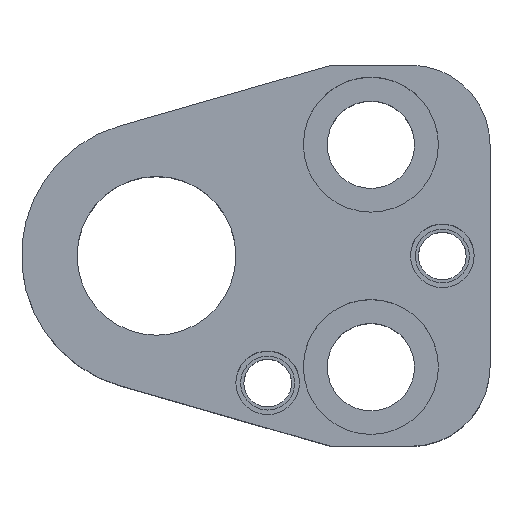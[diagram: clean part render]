
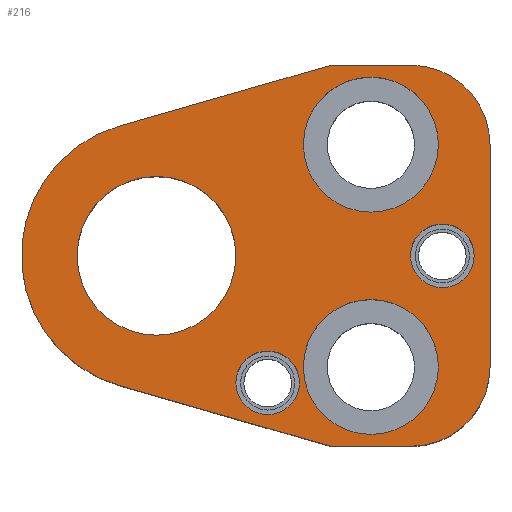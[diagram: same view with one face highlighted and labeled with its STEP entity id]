
A CAD part, top view. The second image highlights one B-rep face of the part: STEP entity #216.
In plain terms, the highlighted planar face has unit normal (0, 0, 1).
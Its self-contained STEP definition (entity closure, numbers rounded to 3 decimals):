
#104=FACE_BOUND('',#309,.T.);
#105=FACE_BOUND('',#310,.T.);
#106=FACE_BOUND('',#311,.T.);
#107=FACE_BOUND('',#312,.T.);
#108=FACE_BOUND('',#313,.T.);
#109=FACE_BOUND('',#314,.T.);
#148=CIRCLE('',#832,10.);
#150=CIRCLE('',#836,10.);
#160=CIRCLE('',#852,8.5);
#162=CIRCLE('',#855,8.5);
#164=CIRCLE('',#859,8.5);
#166=CIRCLE('',#862,8.5);
#168=CIRCLE('',#866,17.);
#169=CIRCLE('',#867,4.);
#170=CIRCLE('',#868,4.);
#171=CIRCLE('',#869,4.);
#172=CIRCLE('',#870,4.);
#173=CIRCLE('',#871,10.);
#174=CIRCLE('',#872,10.);
#216=ADVANCED_FACE('',(#104,#105,#106,#107,#108,#109),#248,.T.);
#248=PLANE('',#873);
#309=EDGE_LOOP('',(#409,#410,#411,#412,#413,#414,#415,#416));
#310=EDGE_LOOP('',(#417,#418));
#311=EDGE_LOOP('',(#419,#420));
#312=EDGE_LOOP('',(#421,#422));
#313=EDGE_LOOP('',(#423,#424));
#314=EDGE_LOOP('',(#425,#426));
#409=ORIENTED_EDGE('',*,*,#666,.T.);
#410=ORIENTED_EDGE('',*,*,#627,.T.);
#411=ORIENTED_EDGE('',*,*,#631,.T.);
#412=ORIENTED_EDGE('',*,*,#634,.T.);
#413=ORIENTED_EDGE('',*,*,#637,.T.);
#414=ORIENTED_EDGE('',*,*,#640,.T.);
#415=ORIENTED_EDGE('',*,*,#667,.T.);
#416=ORIENTED_EDGE('',*,*,#668,.T.);
#417=ORIENTED_EDGE('',*,*,#669,.F.);
#418=ORIENTED_EDGE('',*,*,#670,.F.);
#419=ORIENTED_EDGE('',*,*,#671,.F.);
#420=ORIENTED_EDGE('',*,*,#672,.F.);
#421=ORIENTED_EDGE('',*,*,#664,.F.);
#422=ORIENTED_EDGE('',*,*,#660,.F.);
#423=ORIENTED_EDGE('',*,*,#658,.F.);
#424=ORIENTED_EDGE('',*,*,#654,.F.);
#425=ORIENTED_EDGE('',*,*,#673,.T.);
#426=ORIENTED_EDGE('',*,*,#674,.T.);
#558=VERTEX_POINT('',#1171);
#559=VERTEX_POINT('',#1173);
#562=VERTEX_POINT('',#1180);
#564=VERTEX_POINT('',#1186);
#566=VERTEX_POINT('',#1192);
#568=VERTEX_POINT('',#1198);
#577=VERTEX_POINT('',#1227);
#578=VERTEX_POINT('',#1228);
#581=VERTEX_POINT('',#1240);
#582=VERTEX_POINT('',#1241);
#585=VERTEX_POINT('',#1253);
#586=VERTEX_POINT('',#1255);
#587=VERTEX_POINT('',#1258);
#588=VERTEX_POINT('',#1259);
#589=VERTEX_POINT('',#1262);
#590=VERTEX_POINT('',#1263);
#591=VERTEX_POINT('',#1266);
#592=VERTEX_POINT('',#1267);
#627=EDGE_CURVE('',#559,#558,#731,.T.);
#631=EDGE_CURVE('',#558,#562,#148,.T.);
#634=EDGE_CURVE('',#562,#564,#736,.T.);
#637=EDGE_CURVE('',#564,#566,#150,.T.);
#640=EDGE_CURVE('',#566,#568,#740,.T.);
#654=EDGE_CURVE('',#577,#578,#160,.T.);
#658=EDGE_CURVE('',#578,#577,#162,.T.);
#660=EDGE_CURVE('',#581,#582,#164,.T.);
#664=EDGE_CURVE('',#582,#581,#166,.T.);
#666=EDGE_CURVE('',#585,#559,#750,.T.);
#667=EDGE_CURVE('',#568,#586,#751,.T.);
#668=EDGE_CURVE('',#586,#585,#168,.T.);
#669=EDGE_CURVE('',#587,#588,#169,.T.);
#670=EDGE_CURVE('',#588,#587,#170,.T.);
#671=EDGE_CURVE('',#589,#590,#171,.T.);
#672=EDGE_CURVE('',#590,#589,#172,.T.);
#673=EDGE_CURVE('',#591,#592,#173,.T.);
#674=EDGE_CURVE('',#592,#591,#174,.T.);
#731=LINE('',#1172,#781);
#736=LINE('',#1187,#786);
#740=LINE('',#1199,#790);
#750=LINE('',#1252,#800);
#751=LINE('',#1254,#801);
#781=VECTOR('',#929,1.);
#786=VECTOR('',#942,1.);
#790=VECTOR('',#954,1.);
#800=VECTOR('',#1018,1.);
#801=VECTOR('',#1019,1.);
#832=AXIS2_PLACEMENT_3D('',#1181,#935,#936);
#836=AXIS2_PLACEMENT_3D('',#1193,#947,#948);
#852=AXIS2_PLACEMENT_3D('',#1226,#986,#987);
#855=AXIS2_PLACEMENT_3D('',#1235,#994,#995);
#859=AXIS2_PLACEMENT_3D('',#1239,#1002,#1003);
#862=AXIS2_PLACEMENT_3D('',#1248,#1010,#1011);
#866=AXIS2_PLACEMENT_3D('',#1256,#1020,#1021);
#867=AXIS2_PLACEMENT_3D('',#1257,#1022,#1023);
#868=AXIS2_PLACEMENT_3D('',#1260,#1024,#1025);
#869=AXIS2_PLACEMENT_3D('',#1261,#1026,#1027);
#870=AXIS2_PLACEMENT_3D('',#1264,#1028,#1029);
#871=AXIS2_PLACEMENT_3D('',#1265,#1030,#1031);
#872=AXIS2_PLACEMENT_3D('',#1268,#1032,#1033);
#873=AXIS2_PLACEMENT_3D('',#1269,#1034,#1035);
#929=DIRECTION('',(1.,0.,0.));
#935=DIRECTION('',(0.,0.,1.));
#936=DIRECTION('',(-0.707,0.707,0.));
#942=DIRECTION('',(0.,1.,0.));
#947=DIRECTION('',(0.,0.,1.));
#948=DIRECTION('',(-0.707,-0.707,0.));
#954=DIRECTION('',(-1.,0.,0.));
#986=DIRECTION('',(0.,0.,1.));
#987=DIRECTION('',(-1.,0.,0.));
#994=DIRECTION('',(0.,0.,1.));
#995=DIRECTION('',(1.,0.,0.));
#1002=DIRECTION('',(0.,0.,1.));
#1003=DIRECTION('',(-1.,0.,0.));
#1010=DIRECTION('',(0.,0.,1.));
#1011=DIRECTION('',(1.,0.,0.));
#1018=DIRECTION('',(0.961,-0.276,0.));
#1019=DIRECTION('',(-0.961,-0.276,0.));
#1020=DIRECTION('',(0.,0.,1.));
#1021=DIRECTION('',(1.,0.,0.));
#1022=DIRECTION('',(0.,0.,1.));
#1023=DIRECTION('',(1.,0.,0.));
#1024=DIRECTION('',(0.,0.,1.));
#1025=DIRECTION('',(-1.,0.,0.));
#1026=DIRECTION('',(0.,0.,1.));
#1027=DIRECTION('',(1.,0.,0.));
#1028=DIRECTION('',(0.,0.,1.));
#1029=DIRECTION('',(-1.,0.,0.));
#1030=DIRECTION('',(0.,0.,-1.));
#1031=DIRECTION('',(-1.,0.,0.));
#1032=DIRECTION('',(0.,0.,-1.));
#1033=DIRECTION('',(1.,0.,0.));
#1034=DIRECTION('',(0.,0.,1.));
#1035=DIRECTION('',(0.961,-0.276,0.));
#1171=CARTESIAN_POINT('',(32.,-24.,30.));
#1172=CARTESIAN_POINT('',(22.,-24.,30.));
#1173=CARTESIAN_POINT('',(22.,-24.,30.));
#1180=CARTESIAN_POINT('',(42.,-14.,30.));
#1181=CARTESIAN_POINT('',(32.,-14.,30.));
#1186=CARTESIAN_POINT('',(42.,14.,30.));
#1187=CARTESIAN_POINT('',(42.,14.,30.));
#1192=CARTESIAN_POINT('',(32.,24.,30.));
#1193=CARTESIAN_POINT('',(32.,14.,30.));
#1198=CARTESIAN_POINT('',(22.,24.,30.));
#1199=CARTESIAN_POINT('',(22.,24.,30.));
#1226=CARTESIAN_POINT('',(27.,-14.,30.));
#1227=CARTESIAN_POINT('',(27.,-22.5,30.));
#1228=CARTESIAN_POINT('',(27.,-5.5,30.));
#1235=CARTESIAN_POINT('',(27.,-14.,30.));
#1239=CARTESIAN_POINT('',(27.,14.,30.));
#1240=CARTESIAN_POINT('',(27.,5.5,30.));
#1241=CARTESIAN_POINT('',(27.,22.5,30.));
#1248=CARTESIAN_POINT('',(27.,14.,30.));
#1252=CARTESIAN_POINT('',(22.,-24.,30.));
#1253=CARTESIAN_POINT('',(-4.69,-16.34,30.));
#1254=CARTESIAN_POINT('',(22.,24.,30.));
#1255=CARTESIAN_POINT('',(-4.69,16.34,30.));
#1256=CARTESIAN_POINT('',(0.,0.,30.));
#1257=CARTESIAN_POINT('',(36.,0.,30.));
#1258=CARTESIAN_POINT('',(36.,4.,30.));
#1259=CARTESIAN_POINT('',(36.,-4.,30.));
#1260=CARTESIAN_POINT('',(36.,0.,30.));
#1261=CARTESIAN_POINT('',(14.,-16.,30.));
#1262=CARTESIAN_POINT('',(14.,-12.,30.));
#1263=CARTESIAN_POINT('',(14.,-20.,30.));
#1264=CARTESIAN_POINT('',(14.,-16.,30.));
#1265=CARTESIAN_POINT('',(0.,0.,30.));
#1266=CARTESIAN_POINT('',(0.,10.,30.));
#1267=CARTESIAN_POINT('',(0.,-10.,30.));
#1268=CARTESIAN_POINT('',(0.,0.,30.));
#1269=CARTESIAN_POINT('',(-4.69,-16.34,30.));
